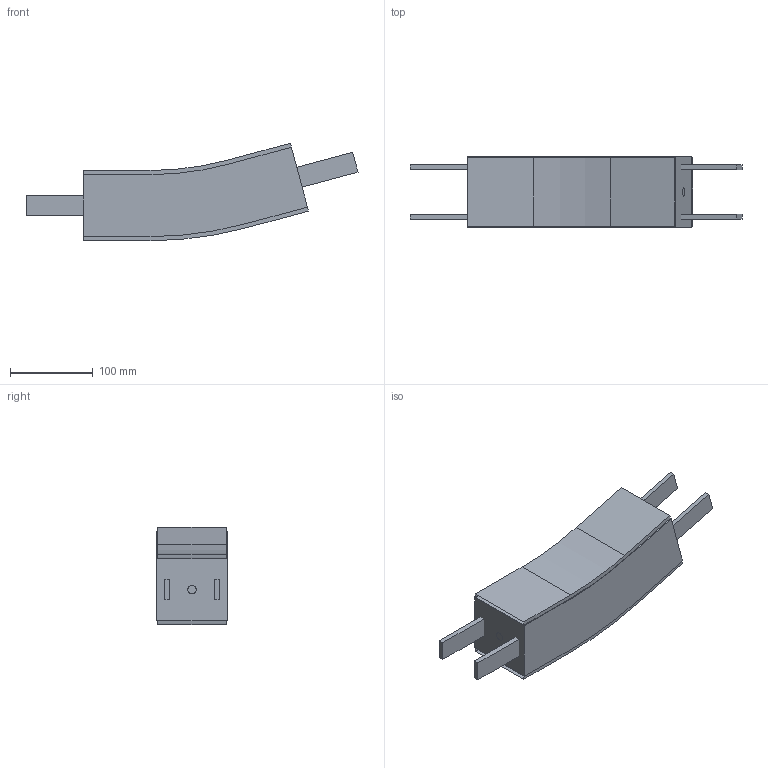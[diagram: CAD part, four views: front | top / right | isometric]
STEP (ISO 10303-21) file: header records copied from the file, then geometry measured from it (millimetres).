
FILE_DESCRIPTION(/* description */ ('Vertikaler Gleitbogen, 15°, R400'),/* implementation_level */ '2;1');
FILE_NAME(/* name */ 'T:\vdz0\Step Daten Website\modulflex FM-System\Vertikale Gleitbögen\FMBV 15R400_43834.stp',/* time_stamp */ '2024-09-03T10:37:24+02:00',/* author */ ('lzb0'),/* organization */ ('modular automation GmbH'),/* preprocessor_version */ 'ST-DEVELOPER v18.1',/* originating_system */ 'Autodesk Inventor 2021',/* authorisation */ '');
FILE_SCHEMA (('AUTOMOTIVE_DESIGN { 1 0 10303 214 3 1 1 }'));
Length unit declared in the file: millimetre
Products named in the file (1): FMBV 15R400
Bounding box: 401.65 x 85 x 117.89 mm (x, y, z)
Volume: 1771588.4 mm3; surface area: 227190 mm2
Topology: 5 solids, 9 shells, 52 faces, 126 edges, 84 vertices
Faces by surface type: plane 44, cylinder 8
Full cylindrical faces by diameter (mm): 10 x2
Entity records: 1598 total; most frequent: CARTESIAN_POINT 270, DIRECTION 250, ORIENTED_EDGE 232, EDGE_CURVE 126, LINE 110, VECTOR 110, VERTEX_POINT 84, AXIS2_PLACEMENT_3D 70
